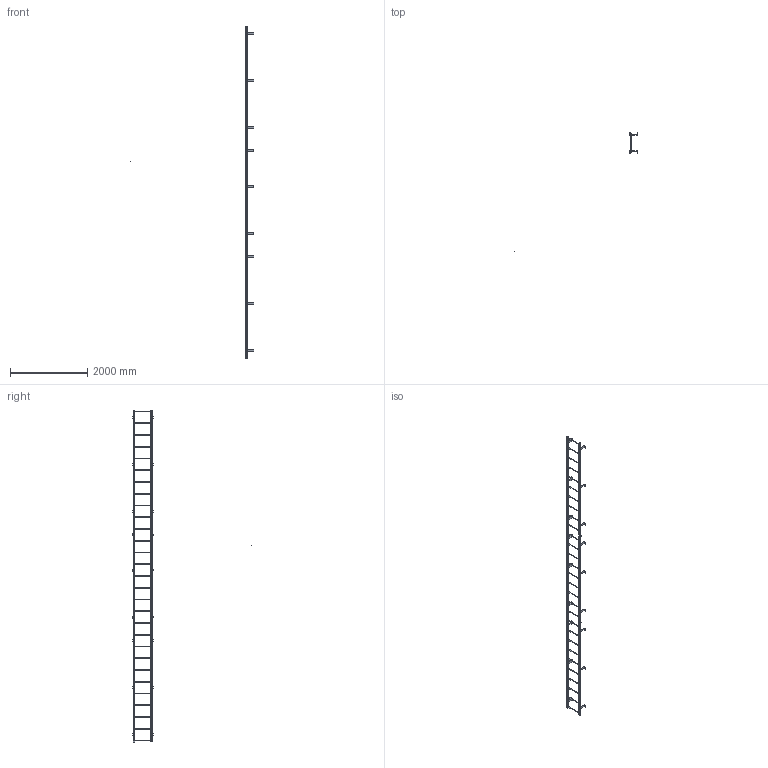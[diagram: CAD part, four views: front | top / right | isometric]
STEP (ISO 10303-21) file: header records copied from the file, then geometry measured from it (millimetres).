
FILE_DESCRIPTION(/* description */ (''),/* implementation_level */ '2;1');
FILE_NAME(/* name */ 'P:\MIKEL & KAREN\D0570343 F29S SIMPLIFIED PART.stp',/* time_stamp */ '2018-07-03T08:31:08-04:00',/* author */ ('stephanie'),/* organization */ (''),/* preprocessor_version */ 'ST-DEVELOPER v16.1',/* originating_system */ 'Autodesk Inventor 2016',/* authorisation */ '');
FILE_SCHEMA (('AUTOMOTIVE_DESIGN { 1 0 10303 214 3 1 1 }'));
Length unit declared in the file: centimetre
Products named in the file (1): D0570343 F29S SIMPLIFIED PART
Bounding box: 3197.42 x 3084.4 x 8610.6 mm (x, y, z)
Volume: 15275347.8 mm3; surface area: 4590208.6 mm2
Topology: 32 solids, 32 shells, 498 faces, 1346 edges, 896 vertices
Faces by surface type: plane 298, cylinder 200
Full cylindrical faces by diameter (mm): 0.254 x1, 14.287 x22, 19.05 x29, 22.225 x58
Entity records: 15325 total; most frequent: DIRECTION 2590, CARTESIAN_POINT 2471, ORIENTED_EDGE 2312, EDGE_CURVE 1156, AXIS2_PLACEMENT_3D 935, VERTEX_POINT 816, EDGE_LOOP 768, LINE 720
